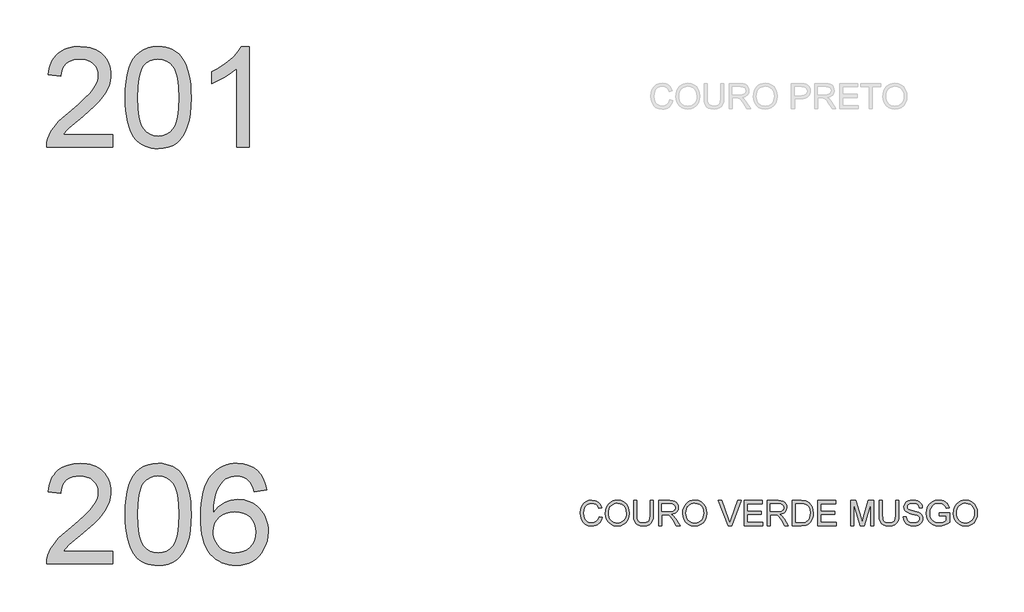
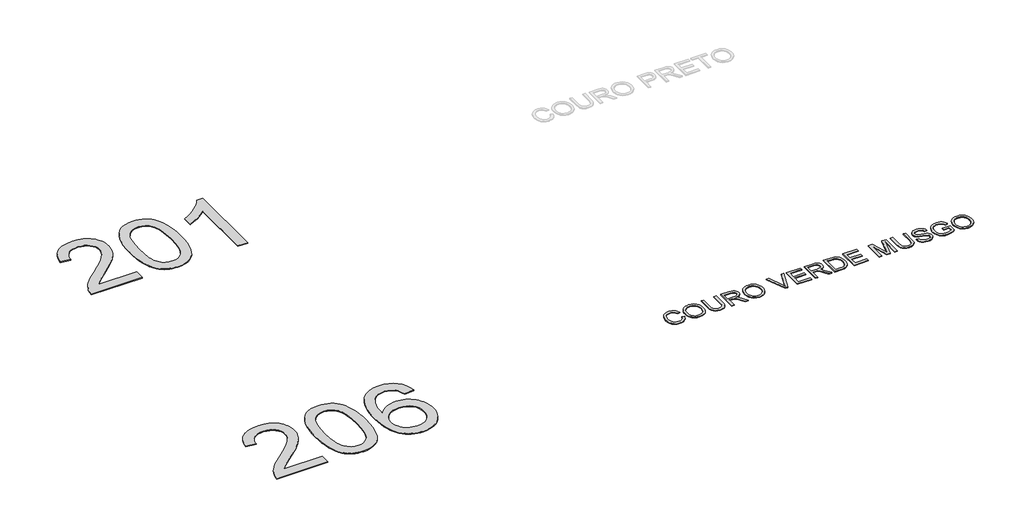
# One storey, part 1 of 35: 3 proxies.
"""IFC4 building model written with IfcOpenShell, lengths in millimetres."""

from ifc_helpers import new_model, si_unit, origin, origin_with_axes, place, context, project, spatial, polyline, outline, extrude, element, save

model = new_model("IFC4")

# Units and contexts
model_context = context("Model", 3, world=origin())
ifc_project = project(units=[si_unit("LENGTHUNIT", "METRE", prefix="MILLI")], contexts=[model_context])

# Site, building, storey
site = spatial("IfcSite", under=ifc_project)
building = spatial("IfcBuilding", under=site)
storey = spatial("IfcBuildingStorey", under=building, Name="Marelli - Linha YOU - Planta Baixa", Elevation=0.0)

# Proxies
placement = place(None, origin())
element("IfcBuildingElementProxy", 1, Name="1200mm Arial", ObjectType="1200mm Arial", at=placement, inside=storey, context=model_context, shape_type="SweptSolid", body=[
    extrude(outline(polyline([(-24408.8734949, -150338.133975), (-24408.8734949, -150488.8184403), (-25199.9669374, -150488.8184403), (-25196.6559994, -150435.7698566), (-25183.7801296, -150384.9285648), (-25167.3541985, -150344.029284), (-25146.6240481, -150303.7370085), (-25121.5896783, -150264.0517383), (-25092.2510892, -150224.9734733), (-25056.8424471, -150184.9755034), (-25013.5979186, -150142.5311182), (-24903.601202, -150050.303102), (-24814.169089, -149973.3605827), (-24740.9973602, -149905.8726307), (-24684.0860155, -149847.839246), (-24643.4350551, -149799.2604285), (-24614.9793827, -149755.7032003), (-24594.6539025, -149712.7345832), (-24582.4586144, -149670.3545774), (-24578.3935183, -149628.5631827), (-24582.2286881, -149589.2457945), (-24593.7341975, -149553.1105855), (-24612.9100465, -149520.1575558), (-24639.7562351, -149490.3867054), (-24672.7828412, -149465.7294146), (-24710.4999428, -149448.1170641), (-24752.9075398, -149437.5496538), (-24800.0056322, -149434.0271837), (-24849.6237163, -149437.4668804), (-24893.999482, -149447.7859703), (-24933.1329292, -149464.9844536), (-24967.024058, -149489.0623302), (-24994.4404637, -149519.2102597), (-25014.1497416, -149554.6189017), (-25026.1518917, -149595.2882563), (-25030.446914, -149641.2183234), (-25181.1313792, -149622.3827652), (-25168.1727359, -149544.5941173), (-25157.7133909, -149509.3832119), (-25144.6006971, -149476.6279187), (-25128.8346543, -149446.3282379), (-25110.4152627, -149418.4841694), (-25089.3425221, -149393.0957132), (-25065.6164327, -149370.1628693), (-25039.4945118, -149349.8143965), (-25011.2342768, -149332.1790533), (-24980.8357277, -149317.2568399), (-24948.2988645, -149305.0477562), (-24876.8101957, -149288.7689779), (-24796.7682706, -149283.3427185), (-24716.0089757, -149289.3759832), (-24678.9609595, -149296.9175641), (-24644.1340308, -149307.4757774), (-24611.5281898, -149321.050623), (-24581.1434362, -149337.642101), (-24552.9797702, -149357.2502113), (-24527.0371918, -149379.874954), (-24503.7571593, -149404.7345798), (-24483.5811311, -149431.0473395), (-24466.5091073, -149458.8132331), (-24452.5410878, -149488.0322606), (-24441.6770726, -149518.7044219), (-24433.9170618, -149550.8297172), (-24429.2610552, -149584.4081463), (-24427.7090531, -149619.4397093), (-24429.3829162, -149655.6301005), (-24434.4045054, -149691.5077921), (-24442.7738208, -149727.072784), (-24454.4908623, -149762.3250762), (-24470.098256, -149797.880871), (-24490.1386277, -149834.3563708), (-24543.5183052, -149910.0664855), (-24580.3524899, -149952.0510182), (-24628.6094106, -150000.4550917), (-24759.3914599, -150116.5218611), (-24932.7374561, -150261.4673672), (-24970.334996, -150299.6903065), (-25000.7220488, -150338.133975), (-24408.8734949, -150338.133975)])), origin_with_axes(), (0.0, 0.0, 1.0), 10.0),
    extrude(outline(polyline([(-24258.1890297, -149895.792664), (-24255.4207177, -149794.4319773), (-24247.1157816, -149702.8385576), (-24233.2742216, -149621.0124048), (-24213.8960375, -149548.953519), (-24189.0640028, -149486.073289), (-24158.860891, -149431.7831035), (-24123.2867021, -149386.0829627), (-24082.341436, -149348.9728664), (-24035.8871371, -149320.2596767), (-23983.7858495, -149299.7502555), (-23926.0375733, -149287.4446027), (-23862.6423085, -149283.3427185), (-23815.0015901, -149285.7707396), (-23769.7888929, -149293.0548031), (-23727.0042169, -149305.194909), (-23686.647562, -149322.1910572), (-23649.6938156, -149343.7581391), (-23617.1178649, -149369.6110463), (-23588.91971, -149399.7497788), (-23565.0993508, -149434.1743365), (-23544.4611709, -149472.7467637), (-23525.8095537, -149515.3291046), (-23494.4660077, -149612.5235278), (-23482.4914488, -149669.6831928), (-23473.9381924, -149735.9479371), (-23468.8062386, -149811.3177609), (-23467.0955873, -149895.792664), (-23469.8363081, -149996.5095573), (-23478.0584707, -150087.6431245), (-23491.7620751, -150169.1933658), (-23510.9471211, -150241.1602811), (-23535.5860177, -150304.0681023), (-23565.6511738, -150358.4410612), (-23601.1425893, -150404.2791578), (-23642.0602642, -150441.5823921), (-23688.5697454, -150470.4887199), (-23740.8365799, -150491.1360968), (-23798.8607676, -150503.524523), (-23862.6423085, -150507.6539984), (-23905.3166199, -150505.8605737), (-23945.6364866, -150500.4802995), (-23983.6019085, -150491.5131759), (-24019.2128856, -150478.9592028), (-24052.469418, -150462.8183803), (-24083.3715056, -150443.0907083), (-24111.9191484, -150419.7761868), (-24138.1123465, -150392.8748159), (-24166.2553191, -150350.2786794), (-24190.6458954, -150302.0999336), (-24211.2840753, -150248.3385785), (-24228.1698589, -150188.9946142), (-24241.3032461, -150124.0680406), (-24250.684237, -150053.5588577), (-24256.3128315, -149977.4670655), (-24258.1890297, -149895.792664)]), holes=[polyline([(-24107.5045645, -149895.4983584), (-24103.0899805, -150026.4919399), (-24089.8462287, -150132.5247279), (-24079.9134148, -150176.1808245), (-24067.773309, -150213.5967226), (-24053.4259112, -150244.7724225), (-24036.8712214, -150269.7079239), (-23999.4944107, -150307.884878), (-23957.9973216, -150335.1541309), (-23912.3799542, -150351.5156826), (-23862.6423085, -150356.9695332), (-23812.9046627, -150351.4972885), (-23767.2872953, -150335.0805545), (-23725.7902063, -150307.7193311), (-23688.4133956, -150269.4136183), (-23671.8587058, -150244.418336), (-23657.511308, -150213.2104465), (-23645.3712021, -150175.7899498), (-23635.4383883, -150132.1568459), (-23622.1946364, -150026.2528166), (-23617.7800525, -149895.4983584), (-23622.0474836, -149767.9720648), (-23634.8497771, -149663.8062779), (-23644.4514972, -149620.4835744), (-23656.1869328, -149583.0009976), (-23670.056084, -149551.3585475), (-23686.0589508, -149525.5562241), (-23722.8103621, -149485.5122689), (-23764.7856978, -149456.9094438), (-23811.9849578, -149439.7477487), (-23864.4081421, -149434.0271837), (-23913.8882704, -149439.067167), (-23958.7330856, -149454.187117), (-23998.9425877, -149479.3870337), (-24034.5167766, -149514.666917), (-24051.6232894, -149543.2145599), (-24066.4489338, -149577.2068562), (-24078.9937099, -149616.6438061), (-24089.2576175, -149661.5254095), (-24102.9428277, -149767.6225769), (-24107.5045645, -149895.4983584)])]), origin_with_axes(), (0.0, 0.0, 1.0), 10.0),
    extrude(outline(polyline([(-22770.1799356, -150488.8184403), (-22920.8644008, -150488.8184403), (-22920.8644008, -149549.3949774), (-22983.772222, -149600.2730573), (-23063.602615, -149651.0775608), (-23147.4061335, -149695.4809177), (-23222.2333313, -149727.1555575), (-23222.2333313, -149584.7116489), (-23161.0821466, -149554.0486846), (-23103.8856934, -149520.3322998), (-23050.6439717, -149483.5624943), (-23001.3569814, -149443.7392684), (-22957.4962505, -149402.7020318), (-22920.533307, -149362.2901946), (-22890.468151, -149322.5037569), (-22867.3007823, -149283.3427185), (-22770.1799356, -149283.3427185), (-22770.1799356, -150488.8184403)])), origin_with_axes(), (0.0, 0.0, 1.0), 10.0),
])
element("IfcBuildingElementProxy", 2, Name="1200mm Arial", ObjectType="1200mm Arial", at=placement, inside=storey, context=model_context, shape_type="SweptSolid", body=[
    extrude(outline(polyline([(-24408.8734949, -155338.133975), (-24408.8734949, -155488.8184403), (-25199.9669374, -155488.8184403), (-25196.6559994, -155435.7698566), (-25183.7801296, -155384.9285648), (-25167.3541985, -155344.029284), (-25146.6240481, -155303.7370085), (-25121.5896783, -155264.0517383), (-25092.2510892, -155224.9734733), (-25056.8424471, -155184.9755034), (-25013.5979186, -155142.5311182), (-24903.601202, -155050.303102), (-24814.169089, -154973.3605827), (-24740.9973602, -154905.8726307), (-24684.0860155, -154847.839246), (-24643.4350551, -154799.2604285), (-24614.9793827, -154755.7032003), (-24594.6539025, -154712.7345832), (-24582.4586144, -154670.3545774), (-24578.3935183, -154628.5631827), (-24582.2286881, -154589.2457945), (-24593.7341975, -154553.1105855), (-24612.9100465, -154520.1575558), (-24639.7562351, -154490.3867054), (-24672.7828412, -154465.7294146), (-24710.4999428, -154448.1170641), (-24752.9075398, -154437.5496538), (-24800.0056322, -154434.0271837), (-24849.6237163, -154437.4668804), (-24893.999482, -154447.7859703), (-24933.1329292, -154464.9844536), (-24967.024058, -154489.0623302), (-24994.4404637, -154519.2102597), (-25014.1497416, -154554.6189017), (-25026.1518917, -154595.2882563), (-25030.446914, -154641.2183234), (-25181.1313792, -154622.3827652), (-25168.1727359, -154544.5941173), (-25157.7133909, -154509.3832119), (-25144.6006971, -154476.6279187), (-25128.8346543, -154446.3282379), (-25110.4152627, -154418.4841694), (-25089.3425221, -154393.0957132), (-25065.6164327, -154370.1628693), (-25039.4945118, -154349.8143965), (-25011.2342768, -154332.1790533), (-24980.8357277, -154317.2568399), (-24948.2988645, -154305.0477562), (-24876.8101957, -154288.7689779), (-24796.7682706, -154283.3427185), (-24716.0089757, -154289.3759832), (-24678.9609595, -154296.9175641), (-24644.1340308, -154307.4757774), (-24611.5281898, -154321.050623), (-24581.1434362, -154337.642101), (-24552.9797702, -154357.2502113), (-24527.0371918, -154379.874954), (-24503.7571593, -154404.7345798), (-24483.5811311, -154431.0473395), (-24466.5091073, -154458.8132331), (-24452.5410878, -154488.0322606), (-24441.6770726, -154518.7044219), (-24433.9170618, -154550.8297172), (-24429.2610552, -154584.4081463), (-24427.7090531, -154619.4397093), (-24429.3829162, -154655.6301005), (-24434.4045054, -154691.5077921), (-24442.7738208, -154727.072784), (-24454.4908623, -154762.3250762), (-24470.098256, -154797.880871), (-24490.1386277, -154834.3563708), (-24543.5183052, -154910.0664855), (-24580.3524899, -154952.0510182), (-24628.6094106, -155000.4550917), (-24759.3914599, -155116.5218611), (-24932.7374561, -155261.4673672), (-24970.334996, -155299.6903065), (-25000.7220488, -155338.133975), (-24408.8734949, -155338.133975)])), origin_with_axes(), (0.0, 0.0, 1.0), 10.0),
    extrude(outline(polyline([(-24258.1890297, -154895.792664), (-24255.4207177, -154794.4319773), (-24247.1157816, -154702.8385576), (-24233.2742216, -154621.0124048), (-24213.8960375, -154548.953519), (-24189.0640028, -154486.073289), (-24158.860891, -154431.7831035), (-24123.2867021, -154386.0829627), (-24082.341436, -154348.9728664), (-24035.8871371, -154320.2596767), (-23983.7858495, -154299.7502555), (-23926.0375733, -154287.4446027), (-23862.6423085, -154283.3427185), (-23815.0015901, -154285.7707396), (-23769.7888929, -154293.0548031), (-23727.0042169, -154305.194909), (-23686.647562, -154322.1910572), (-23649.6938156, -154343.7581391), (-23617.1178649, -154369.6110463), (-23588.91971, -154399.7497788), (-23565.0993508, -154434.1743365), (-23544.4611709, -154472.7467637), (-23525.8095537, -154515.3291046), (-23494.4660077, -154612.5235278), (-23482.4914488, -154669.6831928), (-23473.9381924, -154735.9479371), (-23468.8062386, -154811.3177609), (-23467.0955873, -154895.792664), (-23469.8363081, -154996.5095573), (-23478.0584707, -155087.6431245), (-23491.7620751, -155169.1933658), (-23510.9471211, -155241.1602811), (-23535.5860177, -155304.0681023), (-23565.6511738, -155358.4410612), (-23601.1425893, -155404.2791578), (-23642.0602642, -155441.5823921), (-23688.5697454, -155470.4887199), (-23740.8365799, -155491.1360968), (-23798.8607676, -155503.524523), (-23862.6423085, -155507.6539984), (-23905.3166199, -155505.8605737), (-23945.6364866, -155500.4802995), (-23983.6019085, -155491.5131759), (-24019.2128856, -155478.9592028), (-24052.469418, -155462.8183803), (-24083.3715056, -155443.0907083), (-24111.9191484, -155419.7761868), (-24138.1123465, -155392.8748159), (-24166.2553191, -155350.2786794), (-24190.6458954, -155302.0999336), (-24211.2840753, -155248.3385785), (-24228.1698589, -155188.9946142), (-24241.3032461, -155124.0680406), (-24250.684237, -155053.5588577), (-24256.3128315, -154977.4670655), (-24258.1890297, -154895.792664)]), holes=[polyline([(-24107.5045645, -154895.4983584), (-24103.0899805, -155026.4919399), (-24089.8462287, -155132.5247279), (-24079.9134148, -155176.1808245), (-24067.773309, -155213.5967226), (-24053.4259112, -155244.7724225), (-24036.8712214, -155269.7079239), (-23999.4944107, -155307.884878), (-23957.9973216, -155335.1541309), (-23912.3799542, -155351.5156826), (-23862.6423085, -155356.9695332), (-23812.9046627, -155351.4972885), (-23767.2872953, -155335.0805545), (-23725.7902063, -155307.7193311), (-23688.4133956, -155269.4136183), (-23671.8587058, -155244.418336), (-23657.511308, -155213.2104465), (-23645.3712021, -155175.7899498), (-23635.4383883, -155132.1568459), (-23622.1946364, -155026.2528166), (-23617.7800525, -154895.4983584), (-23622.0474836, -154767.9720648), (-23634.8497771, -154663.8062779), (-23644.4514972, -154620.4835744), (-23656.1869328, -154583.0009976), (-23670.056084, -154551.3585475), (-23686.0589508, -154525.5562241), (-23722.8103621, -154485.5122689), (-23764.7856978, -154456.9094438), (-23811.9849578, -154439.7477487), (-23864.4081421, -154434.0271837), (-23913.8882704, -154439.067167), (-23958.7330856, -154454.187117), (-23998.9425877, -154479.3870337), (-24034.5167766, -154514.666917), (-24051.6232894, -154543.2145599), (-24066.4489338, -154577.2068562), (-24078.9937099, -154616.6438061), (-24089.2576175, -154661.5254095), (-24102.9428277, -154767.6225769), (-24107.5045645, -154895.4983584)])]), origin_with_axes(), (0.0, 0.0, 1.0), 10.0),
    extrude(outline(polyline([(-22562.9887959, -154603.5472071), (-22713.6732612, -154622.3827652), (-22724.7465092, -154582.0812927), (-22737.9534728, -154547.7027202), (-22753.294152, -154519.2470479), (-22770.7685468, -154496.7142757), (-22803.1605565, -154469.2886729), (-22839.1210215, -154449.6989567), (-22878.6499419, -154437.9451269), (-22921.7473176, -154434.0271837), (-22957.2847184, -154436.3080521), (-22991.7920495, -154443.1506572), (-23025.2693111, -154454.554999), (-23057.716503, -154470.5210776), (-23087.3218066, -154496.6315022), (-23114.3335421, -154528.1681863), (-23138.7517095, -154565.1311297), (-23160.5763089, -154607.5203326), (-23178.6485119, -154658.1316981), (-23191.8094903, -154719.7611293), (-23200.059244, -154792.4086263), (-23203.3977731, -154876.0741891), (-23174.6753864, -154838.2099347), (-23142.9547613, -154805.5512106), (-23108.235898, -154778.0980167), (-23070.5187965, -154755.8503531), (-23030.8151321, -154738.6610669), (-22990.1365805, -154726.3830053), (-22948.4831416, -154719.0161683), (-22905.8548154, -154716.560556), (-22868.9562513, -154718.2390176), (-22833.4556388, -154723.2744024), (-22799.3529778, -154731.6667104), (-22766.6482685, -154743.4159416), (-22735.3415107, -154758.5220961), (-22705.4327045, -154776.9851737), (-22676.9218498, -154798.8051745), (-22649.8089468, -154823.9820986), (-22625.04589, -154851.81697), (-22603.5845741, -154881.6108131), (-22585.4249991, -154913.3636278), (-22570.567165, -154947.0754142), (-22559.0110719, -154982.7461721), (-22550.7567196, -155020.3759017), (-22545.8041082, -155059.9646029), (-22544.1532378, -155101.5122757), (-22547.2618406, -155156.4462547), (-22556.5876492, -155209.4120649), (-22572.1306635, -155260.4097065), (-22593.8908835, -155309.4391794), (-22621.0957571, -155354.6702707), (-22652.972732, -155394.2727675), (-22689.5218082, -155428.2466698), (-22730.7429857, -155456.5919775), (-22775.7533478, -155478.9316116), (-22823.6699777, -155494.8884932), (-22874.4928753, -155504.4626221), (-22928.2220407, -155507.6539984), (-22974.223385, -155505.5386769), (-23018.0496269, -155499.1927125), (-23059.7007666, -155488.6161052), (-23099.1768039, -155473.8088549), (-23136.4777389, -155454.7709616), (-23171.6035717, -155431.5024254), (-23204.5543022, -155404.0032463), (-23235.3299303, -155372.2734242), (-23263.1625025, -155335.6875598), (-23287.2840651, -155293.6202536), (-23307.694618, -155246.0715057), (-23324.3941613, -155193.0413161), (-23337.382695, -155134.5296848), (-23346.6602191, -155070.5366118), (-23352.2267335, -155001.062097), (-23354.0822384, -154926.1061404), (-23352.0220992, -154842.1784618), (-23345.8416817, -154764.1828803), (-23335.5409858, -154692.1193959), (-23321.1200116, -154625.9880088), (-23302.578759, -154565.7887188), (-23279.9172281, -154511.521526), (-23253.1354189, -154463.1864303), (-23222.2333313, -154420.7834319), (-23192.218759, -154388.5707647), (-23159.7117862, -154360.6531198), (-23124.7124129, -154337.0304971), (-23087.2206391, -154317.7028968), (-23047.2364647, -154302.6703188), (-23004.7598898, -154291.9327631), (-22959.7909145, -154285.4902296), (-22912.3295385, -154283.3427185), (-22842.9286002, -154288.6586133), (-22780.1127495, -154304.6062978), (-22723.8819865, -154331.1857719), (-22674.2363113, -154368.3970358), (-22632.518493, -154414.9892904), (-22600.071301, -154469.7117372), (-22576.8947353, -154532.5643761), (-22562.9887959, -154603.5472071)]), holes=[polyline([(-23203.3977731, -155099.157831), (-23201.2180723, -155132.9202011), (-23194.6789698, -155165.9284131), (-23183.7804657, -155198.182467), (-23168.52256, -155229.6823629), (-23149.6502136, -155258.9473756), (-23127.9083877, -155284.4967801), (-23103.2970822, -155306.3305766), (-23075.8162972, -155324.4487648), (-23045.6407766, -155338.676601), (-23012.9452642, -155348.8393411), (-22977.7297602, -155354.9369852), (-22939.9942646, -155356.9695332), (-22887.6170655, -155352.7572844), (-22840.5557613, -155340.1205378), (-22798.8103519, -155319.0592936), (-22762.3808373, -155289.5735517), (-22732.8307161, -155252.8589286), (-22711.7234866, -155210.1110407), (-22699.0591489, -155161.3298882), (-22694.837703, -155106.5154709), (-22699.0039666, -155053.8439662), (-22711.5027574, -155007.0769676), (-22732.3340754, -154966.214475), (-22761.4979205, -154931.2564884), (-22798.0377997, -154903.2514715), (-22840.9972197, -154883.247888), (-22890.3761805, -154871.2457379), (-22946.1746821, -154867.2450212), (-22997.8529054, -154871.2457379), (-23045.4660326, -154883.247888), (-23089.0140638, -154903.2514715), (-23128.4969989, -154931.2564884), (-23161.2660876, -154965.7546225), (-23184.6725796, -155005.2375576), (-23198.7164747, -155049.7052938), (-23203.3977731, -155099.157831)])]), origin_with_axes(), (0.0, 0.0, 1.0), 10.0),
])
element("IfcBuildingElementProxy", 3, Name="300mm Arial", ObjectType="300mm Arial", at=placement, inside=storey, context=model_context, shape_type="SweptSolid", body=[
    extrude(outline(polyline([(-18578.1748362, -154923.4390831), (-18540.5037199, -154933.1511677), (-18547.9579289, -154956.5783531), (-18557.8861442, -154977.0486868), (-18570.288366, -154994.5621691), (-18585.1645942, -155009.1187998), (-18602.1791364, -155020.5622291), (-18620.9963005, -155028.7361071), (-18641.6160863, -155033.640434), (-18664.0384939, -155035.2752096), (-18707.7336779, -155030.3271968), (-18742.4341471, -155015.4831583), (-18769.0320153, -154991.2581289), (-18788.4193965, -154958.1671434), (-18800.2559997, -154919.2636224), (-18804.2015341, -154877.6009865), (-18799.7409649, -154833.6574822), (-18786.3592573, -154795.7104543), (-18764.7553871, -154764.9647166), (-18735.6283302, -154742.6250824), (-18701.0842108, -154729.0226457), (-18663.2291535, -154724.4885001), (-18621.9252025, -154730.3562179), (-18603.9564663, -154737.6908652), (-18587.7765563, -154747.9593714), (-18573.652187, -154760.8904235), (-18561.8500727, -154776.2127086), (-18545.2126095, -154814.0309777), (-18582.8837258, -154823.0072984), (-18595.9435366, -154795.5357104), (-18613.7858134, -154776.6909552), (-18636.6312853, -154765.7924511), (-18664.7006815, -154762.1596164), (-18697.055903, -154766.1879242), (-18723.6353771, -154778.2728478), (-18743.8045075, -154797.1451941), (-18756.9286977, -154821.5357704), (-18764.1299878, -154849.1085259), (-18766.5304178, -154877.5274101), (-18763.6885294, -154912.3290468), (-18755.1628641, -154942.421794), (-18740.6315253, -154966.6560205), (-18719.7726162, -154983.8820949), (-18694.7658376, -154994.1735937), (-18667.7908903, -154997.6040933), (-18636.3461767, -154992.931992), (-18610.1437816, -154978.9156879), (-18590.3609273, -154955.7023341), (-18578.1748362, -154923.4390831)])), origin_with_axes(), (0.0, 0.0, 1.0), 10.0),
    extrude(outline(polyline([(-18502.8326036, -154883.8549804), (-18500.321809, -154848.5061192), (-18492.7894252, -154817.213157), (-18480.2354521, -154789.9760937), (-18462.6598898, -154766.7949295), (-18441.1158004, -154748.2858666), (-18416.6562463, -154735.0651074), (-18389.2812273, -154727.1326519), (-18358.9907435, -154724.4885001), (-18319.4618231, -154729.454907), (-18284.0163929, -154744.3541278), (-18254.5858333, -154768.1376988), (-18233.1015248, -154799.7571563), (-18219.9681375, -154837.68579), (-18215.5903418, -154880.3968896), (-18220.1980638, -154923.6782064), (-18234.0212298, -154962.140269), (-18256.2964846, -154993.8149088), (-18286.2604731, -155016.7339571), (-18321.4024007, -155030.6398965), (-18359.2114727, -155035.2752096), (-18399.3473984, -155030.1524528), (-18434.9951637, -155014.7841825), (-18464.3521469, -154990.5591531), (-18485.6157263, -154958.8661192), (-18498.5283843, -154922.3998164), (-18502.8326036, -154883.8549804)]), holes=[polyline([(-18465.1614873, -154884.2228624), (-18463.2783914, -154909.1974513), (-18457.6291035, -154931.3669401), (-18448.2136237, -154950.7313286), (-18435.0319519, -154967.2906169), (-18419.0083918, -154980.5527628), (-18401.0672467, -154990.0257242), (-18381.2085168, -154995.709501), (-18359.4322019, -154997.6040933), (-18337.2834065, -154995.6911069), (-18317.1901518, -154989.9521478), (-18299.1524377, -154980.3872159), (-18283.1702643, -154966.9963113), (-18270.0851616, -154950.0875351), (-18260.7386597, -154929.9689885), (-18255.1307585, -154906.6406715), (-18253.2614581, -154880.102584), (-18256.4620315, -154846.7540812), (-18266.0637515, -154817.9305269), (-18281.818298, -154794.358488), (-18303.4773504, -154776.7645316), (-18329.6061692, -154765.8108452), (-18358.7700143, -154762.1596164), (-18379.7898718, -154763.9185522), (-18399.2922161, -154769.1953595), (-18417.2770471, -154777.9900385), (-18433.7443649, -154790.302589), (-18447.489356, -154806.7262208), (-18457.3072067, -154827.8541437), (-18463.1979172, -154853.6863575), (-18465.1614873, -154884.2228624)])]), origin_with_axes(), (0.0, 0.0, 1.0), 10.0),
    extrude(outline(polyline([(-17966.0191963, -154729.1973896), (-17928.34808, -154729.1973896), (-17928.34808, -154903.0584205), (-17930.9048598, -154943.7737604), (-17938.5751994, -154975.1265034), (-17952.9042031, -154999.3147446), (-17975.4369753, -155018.5365788), (-18006.2286983, -155031.0905519), (-18045.3345544, -155035.2752096), (-18083.5850849, -155031.6331779), (-18114.1652757, -155020.7070826), (-18137.084324, -155002.8740029), (-18152.3514268, -154978.5110178), (-18160.9322744, -154945.8338995), (-18163.7925569, -154903.0584205), (-18163.7925569, -154729.1973896), (-18126.1214406, -154729.1973896), (-18126.1214406, -154901.7340454), (-18124.2636365, -154935.588386), (-18118.6902243, -154959.1604248), (-18108.5918635, -154975.4851883), (-18093.1592138, -154987.597703), (-18073.0360687, -154995.1024957), (-18048.8662216, -154997.6040933), (-18010.5513118, -154992.6560805), (-17996.2085125, -154986.4710644), (-17985.0754836, -154977.812042), (-17976.7383579, -154965.6351479), (-17970.7832681, -154948.8965171), (-17966.0191963, -154901.7340454), (-17966.0191963, -154729.1973896)])), origin_with_axes(), (0.0, 0.0, 1.0), 10.0),
    extrude(outline(polyline([(-17862.4236264, -155030.5663201), (-17862.4236264, -154729.1973896), (-17732.5612821, -154729.1973896), (-17697.6584778, -154731.2299376), (-17672.2654231, -154737.3275817), (-17653.7057765, -154748.5847708), (-17639.3031964, -154766.0959537), (-17630.0601612, -154787.8101885), (-17626.9791495, -154811.6765329), (-17632.0835122, -154841.3646099), (-17647.3966002, -154865.9759154), (-17658.9963794, -154876.0052983), (-17673.3782662, -154884.0205273), (-17710.4883624, -154894.0085235), (-17689.0776303, -154910.1217548), (-17658.5434247, -154948.8965171), (-17608.2907442, -155030.5663201), (-17652.0687016, -155030.5663201), (-17691.2849223, -154968.0999573), (-17719.6118359, -154926.750021), (-17739.5142518, -154907.2154871), (-17757.430105, -154900.0417882), (-17779.2822955, -154898.717413), (-17824.7525101, -154898.717413), (-17824.7525101, -155030.5663201), (-17862.4236264, -155030.5663201)]), holes=[polyline([(-17824.7525101, -154861.0462967), (-17740.4339568, -154861.0462967), (-17716.2181245, -154859.7127245), (-17697.4285516, -154855.7120078), (-17683.2834889, -154848.7774322), (-17673.0011871, -154838.6422832), (-17666.7379961, -154826.3826157), (-17664.6502658, -154813.0744845), (-17668.6325884, -154794.6987789), (-17680.5795562, -154779.8915286), (-17701.1349627, -154770.1242616), (-17730.9426014, -154766.8685059), (-17824.7525101, -154766.8685059), (-17824.7525101, -154861.0462967)])]), origin_with_axes(), (0.0, 0.0, 1.0), 10.0),
    extrude(outline(polyline([(-17575.1813646, -154883.8549804), (-17572.67057, -154848.5061192), (-17565.1381861, -154817.213157), (-17552.584213, -154789.9760937), (-17535.0086507, -154766.7949295), (-17513.4645614, -154748.2858666), (-17489.0050072, -154735.0651074), (-17461.6299883, -154727.1326519), (-17431.3395045, -154724.4885001), (-17391.8105841, -154729.454907), (-17356.3651539, -154744.3541278), (-17326.9345942, -154768.1376988), (-17305.4502857, -154799.7571563), (-17292.3168985, -154837.68579), (-17287.9391028, -154880.3968896), (-17292.5468247, -154923.6782064), (-17306.3699907, -154962.140269), (-17328.6452455, -154993.8149088), (-17358.609234, -155016.7339571), (-17393.7511616, -155030.6398965), (-17431.5602337, -155035.2752096), (-17471.6961593, -155030.1524528), (-17507.3439247, -155014.7841825), (-17536.7009079, -154990.5591531), (-17557.9644872, -154958.8661192), (-17570.8771452, -154922.3998164), (-17575.1813646, -154883.8549804)]), holes=[polyline([(-17537.5102483, -154884.2228624), (-17535.6271523, -154909.1974513), (-17529.9778644, -154931.3669401), (-17520.5623846, -154950.7313286), (-17507.3807129, -154967.2906169), (-17491.3571527, -154980.5527628), (-17473.4160077, -154990.0257242), (-17453.5572777, -154995.709501), (-17431.7809629, -154997.6040933), (-17409.6321675, -154995.6911069), (-17389.5389128, -154989.9521478), (-17371.5011987, -154980.3872159), (-17355.5190253, -154966.9963113), (-17342.4339226, -154950.0875351), (-17333.0874206, -154929.9689885), (-17327.4795195, -154906.6406715), (-17325.6102191, -154880.102584), (-17328.8107924, -154846.7540812), (-17338.4125125, -154817.9305269), (-17354.1670589, -154794.358488), (-17375.8261114, -154776.7645316), (-17401.9549301, -154765.8108452), (-17431.1187753, -154762.1596164), (-17452.1386328, -154763.9185522), (-17471.6409771, -154769.1953595), (-17489.6258081, -154777.9900385), (-17506.0931259, -154790.302589), (-17519.8381169, -154806.7262208), (-17529.6559677, -154827.8541437), (-17535.5466781, -154853.6863575), (-17537.5102483, -154884.2228624)])]), origin_with_axes(), (0.0, 0.0, 1.0), 10.0),
    extrude(outline(polyline([(-17029.3916365, -155030.5663201), (-17149.321167, -154729.1973896), (-17109.0013003, -154729.1973896), (-17028.729449, -154946.3213432), (-17012.4690648, -154995.2496485), (-16996.4294098, -154946.3213432), (-16915.9368292, -154729.1973896), (-16875.6169626, -154729.1973896), (-16990.4697215, -155030.5663201), (-17029.3916365, -155030.5663201)])), origin_with_axes(), (0.0, 0.0, 1.0), 10.0),
    extrude(outline(polyline([(-16840.5945966, -155030.5663201), (-16840.5945966, -154729.1973896), (-16623.9856779, -154729.1973896), (-16623.9856779, -154766.8685059), (-16802.9234803, -154766.8685059), (-16802.9234803, -154856.3374072), (-16633.4034569, -154856.3374072), (-16633.4034569, -154894.0085235), (-16802.9234803, -154894.0085235), (-16802.9234803, -154992.8952038), (-16619.2767883, -154992.8952038), (-16619.2767883, -155030.5663201), (-16840.5945966, -155030.5663201)])), origin_with_axes(), (0.0, 0.0, 1.0), 10.0),
    extrude(outline(polyline([(-16562.7701139, -155030.5663201), (-16562.7701139, -154729.1973896), (-16432.9077696, -154729.1973896), (-16398.0049653, -154731.2299376), (-16372.6119106, -154737.3275817), (-16354.0522639, -154748.5847708), (-16339.6496838, -154766.0959537), (-16330.4066487, -154787.8101885), (-16327.325637, -154811.6765329), (-16332.4299996, -154841.3646099), (-16347.7430877, -154865.9759154), (-16359.3428668, -154876.0052983), (-16373.7247536, -154884.0205273), (-16410.8348499, -154894.0085235), (-16389.4241177, -154910.1217548), (-16358.8899121, -154948.8965171), (-16308.6372316, -155030.5663201), (-16352.415189, -155030.5663201), (-16391.6314097, -154968.0999573), (-16419.9583233, -154926.750021), (-16439.8607393, -154907.2154871), (-16457.7765924, -154900.0417882), (-16479.628783, -154898.717413), (-16525.0989976, -154898.717413), (-16525.0989976, -155030.5663201), (-16562.7701139, -155030.5663201)]), holes=[polyline([(-16525.0989976, -154861.0462967), (-16440.7804443, -154861.0462967), (-16416.5646119, -154859.7127245), (-16397.775039, -154855.7120078), (-16383.6299763, -154848.7774322), (-16373.3476746, -154838.6422832), (-16367.0844836, -154826.3826157), (-16364.9967533, -154813.0744845), (-16368.9790759, -154794.6987789), (-16380.9260437, -154779.8915286), (-16401.4814501, -154770.1242616), (-16431.2890888, -154766.8685059), (-16525.0989976, -154766.8685059), (-16525.0989976, -154861.0462967)])]), origin_with_axes(), (0.0, 0.0, 1.0), 10.0),
    extrude(outline(polyline([(-16261.4011834, -155030.5663201), (-16261.4011834, -154729.1973896), (-16157.4377316, -154729.1973896), (-16103.6533839, -154733.5383972), (-16079.6306896, -154741.9077126), (-16059.3603917, -154755.0962821), (-16038.5198766, -154778.0521186), (-16023.6758381, -154806.5997614), (-16014.791488, -154840.1873876), (-16011.8300379, -154878.2631741), (-16013.8349948, -154910.6091985), (-16019.8498654, -154939.0740679), (-16029.0101271, -154963.3082943), (-16040.4512571, -154982.9623899), (-16053.6214325, -154998.477813), (-16067.9688304, -155010.2960221), (-16084.4407467, -155019.0608107), (-16103.9844777, -155025.4159721), (-16152.4345364, -155030.5663201), (-16261.4011834, -155030.5663201)]), holes=[polyline([(-16223.7300671, -154992.8952038), (-16157.0698496, -154992.8952038), (-16129.497094, -154991.5340404), (-16108.5830026, -154987.4505502), (-16092.800865, -154980.8838566), (-16080.623971, -154972.0730828), (-16067.536569, -154955.7667134), (-16057.7049227, -154934.6594839), (-16051.5520963, -154908.6594239), (-16049.5011542, -154877.6745629), (-16053.520265, -154836.6189322), (-16065.5775974, -154806.3054558), (-16083.392283, -154785.4833349), (-16104.6834535, -154772.9017706), (-16126.351703, -154768.3768221), (-16158.0999192, -154766.8685059), (-16223.7300671, -154766.8685059), (-16223.7300671, -154992.8952038)])]), origin_with_axes(), (0.0, 0.0, 1.0), 10.0),
    extrude(outline(polyline([(-15960.032253, -155030.5663201), (-15960.032253, -154729.1973896), (-15743.4233342, -154729.1973896), (-15743.4233342, -154766.8685059), (-15922.3611367, -154766.8685059), (-15922.3611367, -154856.3374072), (-15752.8411133, -154856.3374072), (-15752.8411133, -154894.0085235), (-15922.3611367, -154894.0085235), (-15922.3611367, -154992.8952038), (-15738.7144447, -154992.8952038), (-15738.7144447, -155030.5663201), (-15960.032253, -155030.5663201)])), origin_with_axes(), (0.0, 0.0, 1.0), 10.0),
    extrude(outline(polyline([(-15564.4855318, -155030.5663201), (-15564.4855318, -154729.1973896), (-15499.6647242, -154729.1973896), (-15438.0077018, -154941.6124536), (-15425.5732904, -154985.9790223), (-15412.1088094, -154937.9336337), (-15351.4818565, -154729.1973896), (-15286.661049, -154729.1973896), (-15286.661049, -155030.5663201), (-15324.3321653, -155030.5663201), (-15324.3321653, -154766.8685059), (-15400.0422799, -155030.5663201), (-15451.1043008, -155030.5663201), (-15526.8144154, -154766.8685059), (-15526.8144154, -155030.5663201), (-15564.4855318, -155030.5663201)])), origin_with_axes(), (0.0, 0.0, 1.0), 10.0),
    extrude(outline(polyline([(-15022.9632349, -154729.1973896), (-14985.2921185, -154729.1973896), (-14985.2921185, -154903.0584205), (-14987.8488984, -154943.7737604), (-14995.519238, -154975.1265034), (-15009.8482417, -154999.3147446), (-15032.3810139, -155018.5365788), (-15063.1727369, -155031.0905519), (-15102.278593, -155035.2752096), (-15140.5291235, -155031.6331779), (-15171.1093143, -155020.7070826), (-15194.0283626, -155002.8740029), (-15209.2954654, -154978.5110178), (-15217.8763129, -154945.8338995), (-15220.7365955, -154903.0584205), (-15220.7365955, -154729.1973896), (-15183.0654792, -154729.1973896), (-15183.0654792, -154901.7340454), (-15181.2076751, -154935.588386), (-15175.6342629, -154959.1604248), (-15165.5359021, -154975.4851883), (-15150.1032524, -154987.597703), (-15129.9801073, -154995.1024957), (-15105.8102602, -154997.6040933), (-15067.4953504, -154992.6560805), (-15053.1525511, -154986.4710644), (-15042.0195222, -154977.812042), (-15033.6823965, -154965.6351479), (-15027.7273067, -154948.8965171), (-15022.9632349, -154901.7340454), (-15022.9632349, -154729.1973896)])), origin_with_axes(), (0.0, 0.0, 1.0), 10.0),
    extrude(outline(polyline([(-14933.4943336, -154926.9707502), (-14895.8232173, -154926.9707502), (-14891.5006039, -154947.8756446), (-14883.6831115, -154964.6786547), (-14871.4878233, -154978.0143771), (-14854.0318227, -154988.517408), (-14832.6946669, -154995.332422), (-14808.8559137, -154997.6040933), (-14787.8682458, -154995.884245), (-14769.4925402, -154990.7247), (-14754.6025164, -154982.5577197), (-14744.0718943, -154971.8155654), (-14737.8087033, -154959.4823216), (-14735.720973, -154946.5420724), (-14737.2844715, -154933.932917), (-14741.9749669, -154923.0344129), (-14751.5031106, -154913.7361955), (-14767.5795538, -154905.9279001), (-14822.4307593, -154891.5437141), (-14858.4372096, -154882.0247675), (-14881.4758195, -154872.9656733), (-14900.2286042, -154860.2921386), (-14913.5183413, -154844.9330653), (-14921.4370012, -154827.2195472), (-14924.0765546, -154807.4826782), (-14920.8116018, -154785.4189555), (-14911.0167437, -154764.845155), (-14894.9494976, -154747.4075484), (-14872.8673808, -154734.7524077), (-14846.3614831, -154727.054477), (-14817.022894, -154724.4885001), (-14785.2378896, -154727.1740386), (-14757.4260107, -154735.2306543), (-14734.5805388, -154748.4928003), (-14717.6947553, -154766.7949295), (-14707.0077833, -154788.9966079), (-14702.7587463, -154813.9574013), (-14740.4298626, -154813.9574013), (-14747.3460441, -154791.4798114), (-14761.7670183, -154775.2562154), (-14784.2997905, -154765.4337661), (-14815.551366, -154762.1596164), (-14847.5387055, -154765.3969779), (-14869.4828665, -154775.1090626), (-14882.1747953, -154789.4012781), (-14886.4054382, -154806.3790322), (-14883.4072, -154820.8551887), (-14874.4124852, -154832.4986539), (-14853.1489059, -154842.9097143), (-14812.9026156, -154853.541504), (-14771.3687384, -154863.6398648), (-14746.2423981, -154872.4506385), (-14724.7672866, -154886.1174547), (-14709.7852924, -154902.9848441), (-14700.9837156, -154922.868866), (-14698.0498567, -154945.5855792), (-14701.425174, -154968.8081301), (-14711.5511259, -154990.6511236), (-14728.0138452, -155009.4498935), (-14750.3994646, -155023.539774), (-14777.3192296, -155032.3413507), (-14807.3843857, -155035.2752096), (-14844.2921468, -155032.1114244), (-14874.6700026, -155022.620069), (-14898.8674408, -155006.764355), (-14917.2339494, -154984.5074943), (-14929.0245674, -154957.3945912), (-14933.4943336, -154926.9707502)])), origin_with_axes(), (0.0, 0.0, 1.0), 10.0),
    extrude(outline(polyline([(-14500.2764961, -154912.8440816), (-14500.2764961, -154875.1729653), (-14377.8453681, -154875.1729653), (-14377.8453681, -154987.8184322), (-14407.5978245, -155008.5117945), (-14438.2883799, -155023.355833), (-14469.8434581, -155032.2953654), (-14502.1894825, -155035.2752096), (-14544.4499267, -155030.5387289), (-14582.6452748, -155016.3292869), (-14614.3750969, -154993.1435241), (-14637.2389629, -154961.4780814), (-14651.0621289, -154923.4942654), (-14655.6698509, -154881.3533828), (-14651.080523, -154838.9089976), (-14637.3125393, -154799.4260625), (-14614.936117, -154766.3074859), (-14584.521473, -154742.9561762), (-14547.4757561, -154729.1054191), (-14505.2061148, -154724.4885001), (-14474.1752685, -154727.1648416), (-14446.2714192, -154735.1938661), (-14422.7729568, -154747.9961596), (-14404.9582712, -154764.9923078), (-14391.7788987, -154787.0008481), (-14382.1863757, -154814.8403181), (-14416.914436, -154824.6259792), (-14424.667549, -154804.7695485), (-14434.0945252, -154789.7875542), (-14446.5657248, -154778.493577), (-14463.4515084, -154769.7011973), (-14483.5838506, -154764.0450116), (-14505.794726, -154762.1596164), (-14531.794786, -154764.1921644), (-14554.0240556, -154770.2898085), (-14572.3997613, -154779.6891935), (-14586.8391296, -154791.6269642), (-14606.2265107, -154820.6528536), (-14615.0556786, -154849.0901318), (-14617.9987346, -154879.8082784), (-14614.4578704, -154915.8331228), (-14603.8352777, -154945.4752146), (-14586.4528535, -154968.5230216), (-14562.6324943, -154984.7650117), (-14534.7562361, -154994.3943229), (-14505.2061148, -154997.6040933), (-14479.1140843, -154995.1852692), (-14453.6658473, -154987.9287968), (-14431.5653365, -154977.9316036), (-14415.5164844, -154967.2906169), (-14415.5164844, -154912.8440816), (-14500.2764961, -154912.8440816)])), origin_with_axes(), (0.0, 0.0, 1.0), 10.0),
    extrude(outline(polyline([(-14330.7564727, -154883.8549804), (-14328.2456781, -154848.5061192), (-14320.7132943, -154817.213157), (-14308.1593212, -154789.9760937), (-14290.5837589, -154766.7949295), (-14269.0396695, -154748.2858666), (-14244.5801154, -154735.0651074), (-14217.2050964, -154727.1326519), (-14186.9146126, -154724.4885001), (-14147.3856922, -154729.454907), (-14111.940262, -154744.3541278), (-14082.5097024, -154768.1376988), (-14061.0253939, -154799.7571563), (-14047.8920066, -154837.68579), (-14043.5142109, -154880.3968896), (-14048.1219329, -154923.6782064), (-14061.9450989, -154962.140269), (-14084.2203537, -154993.8149088), (-14114.1843422, -155016.7339571), (-14149.3262698, -155030.6398965), (-14187.1353418, -155035.2752096), (-14227.2712675, -155030.1524528), (-14262.9190328, -155014.7841825), (-14292.276016, -154990.5591531), (-14313.5395954, -154958.8661192), (-14326.4522534, -154922.3998164), (-14330.7564727, -154883.8549804)]), holes=[polyline([(-14293.0853564, -154884.2228624), (-14291.2022605, -154909.1974513), (-14285.5529726, -154931.3669401), (-14276.1374928, -154950.7313286), (-14262.955821, -154967.2906169), (-14246.9322609, -154980.5527628), (-14228.9911158, -154990.0257242), (-14209.1323859, -154995.709501), (-14187.356071, -154997.6040933), (-14165.2072756, -154995.6911069), (-14145.1140209, -154989.9521478), (-14127.0763068, -154980.3872159), (-14111.0941334, -154966.9963113), (-14098.0090307, -154950.0875351), (-14088.6625288, -154929.9689885), (-14083.0546276, -154906.6406715), (-14081.1853272, -154880.102584), (-14084.3859006, -154846.7540812), (-14093.9876206, -154817.9305269), (-14109.7421671, -154794.358488), (-14131.4012195, -154776.7645316), (-14157.5300383, -154765.8108452), (-14186.6938834, -154762.1596164), (-14207.7137409, -154763.9185522), (-14227.2160852, -154769.1953595), (-14245.2009162, -154777.9900385), (-14261.668234, -154790.302589), (-14275.4132251, -154806.7262208), (-14285.2310758, -154827.8541437), (-14291.1217863, -154853.6863575), (-14293.0853564, -154884.2228624)])]), origin_with_axes(), (0.0, 0.0, 1.0), 10.0),
])

save(model, "model.ifc")
